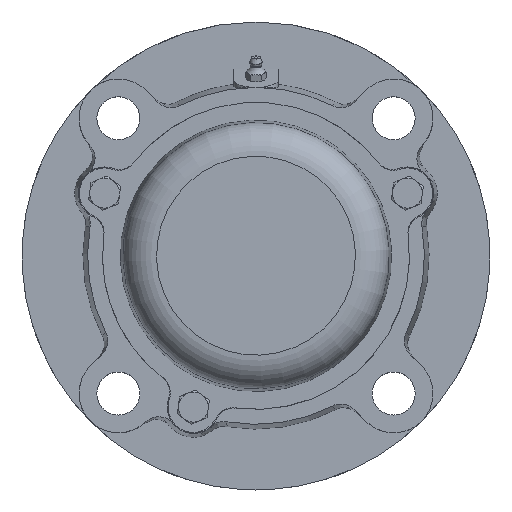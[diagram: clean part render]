
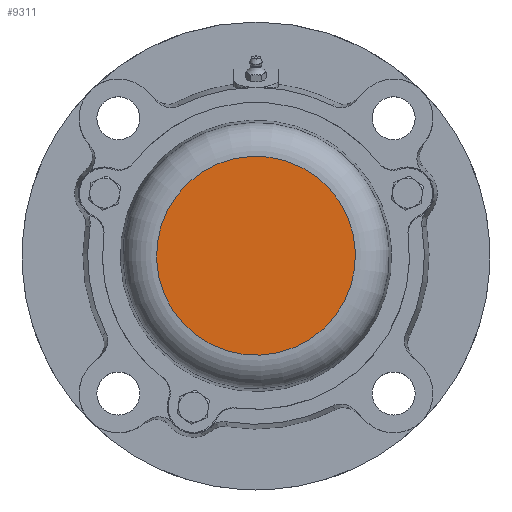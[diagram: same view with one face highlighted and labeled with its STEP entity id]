
A CAD part, top view. The second image highlights one B-rep face of the part: STEP entity #9311.
In plain terms, the highlighted planar face has unit normal (0, 0, 1).
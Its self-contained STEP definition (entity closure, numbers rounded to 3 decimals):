
#9280=CARTESIAN_POINT('',(-53.145,0.0,46.));
#9281=VERTEX_POINT('',#9280);
#9282=CARTESIAN_POINT('',(0.0,0.0,46.));
#9283=DIRECTION('',(0.0,0.0,-1.0));
#9284=DIRECTION('',(1.0,0.0,0.0));
#9285=AXIS2_PLACEMENT_3D('',#9282,#9283,#9284);
#9286=CIRCLE('',#9285,53.145);
#9287=EDGE_CURVE('',#9281,#9281,#9286,.T.);
#9303=CARTESIAN_POINT('',(0.0,0.0,46.));
#9304=DIRECTION('',(0.0,0.0,-1.0));
#9305=DIRECTION('',(-1.0,0.0,0.0));
#9306=AXIS2_PLACEMENT_3D('',#9303,#9304,#9305);
#9307=PLANE('',#9306);
#9308=ORIENTED_EDGE('',*,*,#9287,.F.);
#9309=EDGE_LOOP('',(#9308));
#9310=FACE_OUTER_BOUND('',#9309,.T.);
#9311=ADVANCED_FACE('',(#9310),#9307,.F.);
